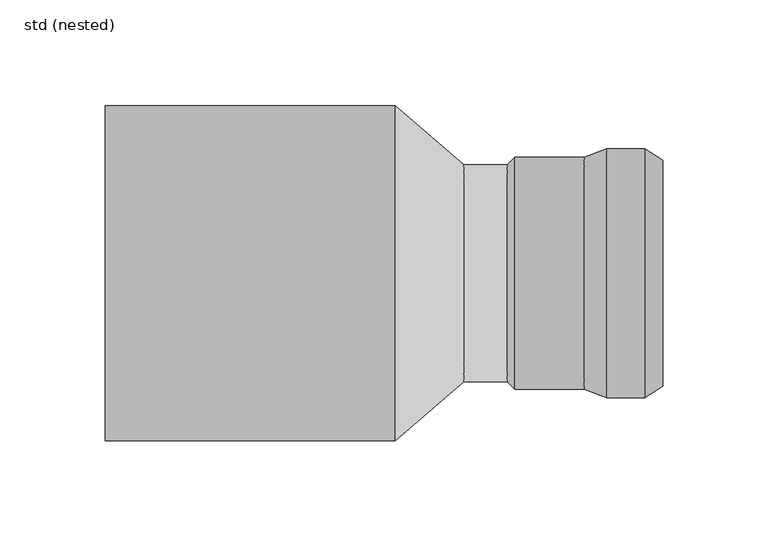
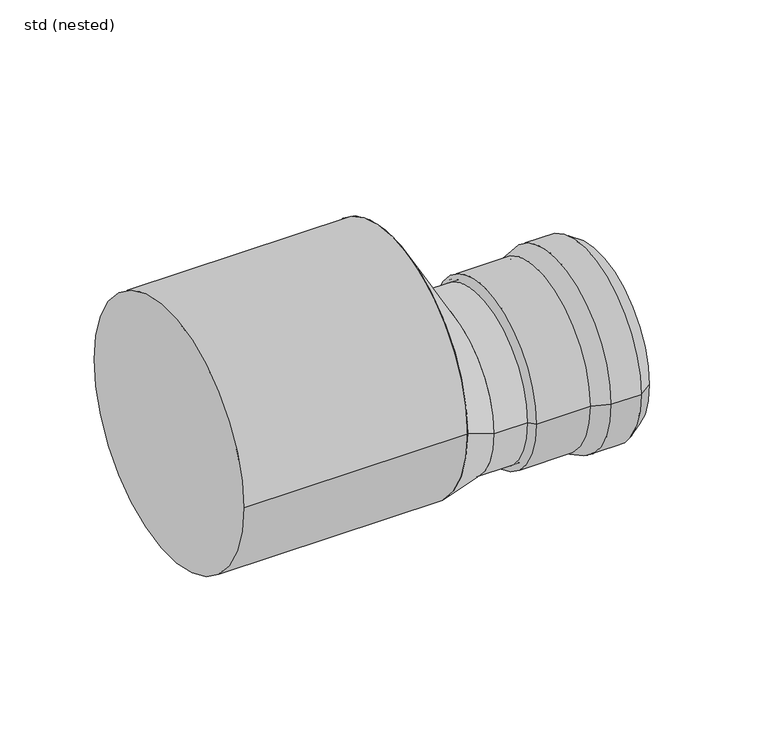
"""IFC4 building model written with IfcOpenShell, lengths in millimetres: pipe fitting geometry, ZZZ_do not use_PIF_ST_UN_GM-X transition element_ACO : std (nested)."""

from ifc_helpers import new_model, si_unit, point, frame, frame_2d, origin, origin_2d, place, context, project, spatial, polyline, circle_curve, trimmed, segment, composite_curve, outline, extrude, source, transform, mapped, element, save
from ifc_brep_helpers import plane_surface, cylinder_surface, revolved_surface, spline_surface, advanced_brep


def std_nested_afca93a4(model_context):
    return source(origin(), model_context, "Body", "SolidModel", [
        advanced_brep(
        [(140.5, -59.0, -28.5), (140.5, 59.0, -28.5), (158.7, 59.0, -28.5), (158.7, -59.0, -28.5), (130.0, -55.0, -28.5), (130.0, 55.0, -28.5), (167.0, 53.5, -28.5), (167.0, -53.5, -28.5), (97.0, -55.0, -28.5), (97.0, 55.0, -28.5), (93.5, -51.5, -28.5), (93.5, 51.5, -28.5), (97.0, -51.5, -28.5), (97.0, 51.5, -28.5), (130.3680513, -53.0, -28.5), (130.3680513, 53.0, -28.5), (97.0, 53.0, -28.5), (97.0, -53.0, -28.5), (140.8680513, -57.0, -28.5), (140.8680513, 57.0, -28.5), (158.0974883, -57.0, -28.5), (158.0974883, 57.0, -28.5), (165.8952393, -51.8328156, -28.5), (165.8952393, 51.8328156, -28.5)],
        [
            (0, 1, circle_curve(frame((140.5, 0.0, -28.5), z_axis=(1.0, 0.0, 0.0), x_axis=(0.0, 1.0, 0.0)), 59.0)),
            (1, 2),
            (2, 3, circle_curve(frame((158.7, 0.0, -28.5), z_axis=(-1.0, 0.0, 0.0), x_axis=(0.0, 1.0, 0.0)), 59.0)),
            (3, 0),
            (1, 0, circle_curve(frame((140.5, 0.0, -28.5), z_axis=(1.0, 0.0, 0.0), x_axis=(0.0, 1.0, 0.0)), 59.0)),
            (3, 2, circle_curve(frame((158.7, 0.0, -28.5), z_axis=(-1.0, 0.0, 0.0), x_axis=(0.0, 1.0, 0.0)), 59.0)),
            (4, 5, circle_curve(frame((130.0, 0.0, -28.5), z_axis=(1.0, 0.0, 0.0), x_axis=(0.0, 1.0, 0.0)), 55.0)),
            (5, 1),
            (0, 4),
            (5, 4, circle_curve(frame((130.0, 0.0, -28.5), z_axis=(1.0, 0.0, 0.0), x_axis=(0.0, 1.0, 0.0)), 55.0)),
            (2, 6),
            (6, 7, circle_curve(frame((167.0, 0.0, -28.5), z_axis=(-1.0, 0.0, 0.0), x_axis=(0.0, 1.0, 0.0)), 53.5)),
            (7, 3),
            (7, 6, circle_curve(frame((167.0, 0.0, -28.5), z_axis=(-1.0, 0.0, 0.0), x_axis=(0.0, 1.0, 0.0)), 53.5)),
            (8, 9, circle_curve(frame((97.0, 0.0, -28.5), z_axis=(1.0, 0.0, 0.0), x_axis=(0.0, 1.0, 0.0)), 55.0)),
            (9, 5),
            (4, 8),
            (9, 8, circle_curve(frame((97.0, 0.0, -28.5), z_axis=(1.0, 0.0, 0.0), x_axis=(0.0, 1.0, 0.0)), 55.0)),
            (10, 11, circle_curve(frame((93.5, 0.0, -28.5), z_axis=(1.0, 0.0, 0.0), x_axis=(0.0, 1.0, 0.0)), 51.5)),
            (11, 9),
            (8, 10),
            (11, 10, circle_curve(frame((93.5, 0.0, -28.5), z_axis=(1.0, 0.0, 0.0), x_axis=(0.0, 1.0, 0.0)), 51.5)),
            (12, 13, circle_curve(frame((97.0, 0.0, -28.5), z_axis=(1.0, 0.0, 0.0), x_axis=(0.0, 1.0, 0.0)), 51.5)),
            (13, 11),
            (10, 12),
            (13, 12, circle_curve(frame((97.0, 0.0, -28.5), z_axis=(1.0, 0.0, 0.0), x_axis=(0.0, 1.0, 0.0)), 51.5)),
            (14, 15, circle_curve(frame((130.3680513, 0.0, -28.5), z_axis=(1.0, 0.0, 0.0), x_axis=(0.0, 1.0, 0.0)), 53.0)),
            (15, 16),
            (16, 17, circle_curve(frame((97.0, 0.0, -28.5), z_axis=(-1.0, 0.0, 0.0), x_axis=(0.0, 1.0, 0.0)), 53.0)),
            (17, 14),
            (15, 14, circle_curve(frame((130.3680513, 0.0, -28.5), z_axis=(1.0, 0.0, 0.0), x_axis=(0.0, 1.0, 0.0)), 53.0)),
            (17, 16, circle_curve(frame((97.0, 0.0, -28.5), z_axis=(-1.0, 0.0, 0.0), x_axis=(0.0, 1.0, 0.0)), 53.0)),
            (18, 19, circle_curve(frame((140.8680513, 0.0, -28.5), z_axis=(1.0, 0.0, 0.0), x_axis=(0.0, 1.0, 0.0)), 57.0)),
            (19, 15),
            (14, 18),
            (19, 18, circle_curve(frame((140.8680513, 0.0, -28.5), z_axis=(1.0, 0.0, 0.0), x_axis=(0.0, 1.0, 0.0)), 57.0)),
            (20, 21, circle_curve(frame((158.0974883, 0.0, -28.5), z_axis=(1.0, 0.0, 0.0), x_axis=(0.0, 1.0, 0.0)), 57.0)),
            (21, 19),
            (18, 20),
            (21, 20, circle_curve(frame((158.0974883, 0.0, -28.5), z_axis=(1.0, 0.0, 0.0), x_axis=(0.0, 1.0, 0.0)), 57.0)),
            (22, 23, circle_curve(frame((165.8952393, 0.0, -28.5), z_axis=(1.0, 0.0, 0.0), x_axis=(0.0, 1.0, 0.0)), 51.8328156)),
            (23, 21),
            (20, 22),
            (23, 22, circle_curve(frame((165.8952393, 0.0, -28.5), z_axis=(1.0, 0.0, 0.0), x_axis=(0.0, 1.0, 0.0)), 51.8328156)),
            (6, 23),
            (22, 7),
            (16, 13),
            (12, 17),
        ],
        [
            cylinder_surface(frame((163.6444117, 0.0, -28.5), z_axis=(-1.0, 0.0, 0.0), x_axis=(0.0, 1.0, 0.0)), 59.0),
            revolved_surface(polyline([(140.5, 59.0, -28.5), (130.0, 55.0, -28.5)]), (163.6444117, 0.0, -28.5), (-1.0, 0.0, 0.0)),
            revolved_surface(polyline([(167.0, 53.5, -28.5), (158.7, 59.0, -28.5)]), (163.6444117, 0.0, -28.5), (-1.0, 0.0, 0.0)),
            cylinder_surface(frame((163.6444117, 0.0, -28.5), z_axis=(-1.0, 0.0, 0.0), x_axis=(0.0, 1.0, 0.0)), 55.0),
            revolved_surface(polyline([(97.0, 55.0, -28.5), (93.5, 51.5, -28.5)]), (163.6444117, 0.0, -28.5), (-1.0, 0.0, 0.0)),
            revolved_surface(polyline([(93.5, 51.5, -28.5), (97.0, 51.5, -28.5)]), (163.6444117, 0.0, -28.5), (-1.0, 0.0, 0.0)),
            revolved_surface(polyline([(97.0, 53.0, -28.5), (130.3680513, 53.0, -28.5)]), (163.6444117, 0.0, -28.5), (-1.0, 0.0, 0.0)),
            revolved_surface(polyline([(130.3680513, 53.0, -28.5), (140.8680513, 57.0, -28.5)]), (163.6444117, 0.0, -28.5), (-1.0, 0.0, 0.0)),
            revolved_surface(polyline([(140.8680513, 57.0, -28.5), (158.0974883, 57.0, -28.5)]), (163.6444117, 0.0, -28.5), (-1.0, 0.0, 0.0)),
            revolved_surface(polyline([(158.0974883, 57.0, -28.5), (165.8952393, 51.8328156, -28.5)]), (163.6444117, 0.0, -28.5), (-1.0, 0.0, 0.0)),
            revolved_surface(polyline([(165.8952393, 51.8328156, -28.5), (167.0, 53.5, -28.5)]), (163.6444117, 0.0, -28.5), (-1.0, 0.0, 0.0)),
            plane_surface(frame((97.0, 0.0, -28.5), z_axis=(1.0, 0.0, 0.0), x_axis=(0.0, 1.0, 0.0))),
        ],
        [
            (0, [[1, 2, 3, 4]]),
            (0, [[5, -4, 6, -2]]),
            (1, [[7, 8, -1, 9]]),
            (1, [[10, -9, -5, -8]]),
            (2, [[-3, 11, 12, 13]]),
            (2, [[-6, -13, 14, -11]]),
            (3, [[15, 16, -7, 17]]),
            (3, [[18, -17, -10, -16]]),
            (4, [[19, 20, -15, 21]]),
            (4, [[22, -21, -18, -20]]),
            (5, [[23, 24, -19, 25]]),
            (5, [[26, -25, -22, -24]]),
            (6, [[27, 28, 29, 30]]),
            (6, [[31, -30, 32, -28]]),
            (7, [[33, 34, -27, 35]]),
            (7, [[36, -35, -31, -34]]),
            (8, [[37, 38, -33, 39]]),
            (8, [[40, -39, -36, -38]]),
            (9, [[41, 42, -37, 43]]),
            (9, [[44, -43, -40, -42]]),
            (10, [[-12, 45, -41, 46]]),
            (10, [[-14, -46, -44, -45]]),
            (11, [[-29, 47, -23, 48]]),
            (11, [[-32, -48, -26, -47]]),
        ],
    ),
        advanced_brep(
        [(72.75, -51.5, -28.5), (72.75, 51.5, -28.5), (40.4166667, -79.5, 0.0), (40.4166667, 79.5, 0.0)],
        [
            (0, 1, circle_curve(frame((72.75, 0.0, -28.5), z_axis=(1.0, 0.0, 0.0), x_axis=(0.0, 1.0, 0.0)), 51.5)),
            (1, 0, circle_curve(frame((72.75, 0.0, -28.5), z_axis=(1.0, 0.0, 0.0), x_axis=(0.0, 1.0, 0.0)), 51.5)),
            (2, 3, circle_curve(frame((40.4166667, 0.0, 0.0), z_axis=(-1.0, 0.0, 0.0), x_axis=(0.0, 1.0, 0.0)), 79.5)),
            (3, 2, circle_curve(frame((40.4166667, 0.0, 0.0), z_axis=(-1.0, 0.0, 0.0), x_axis=(0.0, 1.0, 0.0)), 79.5)),
            (3, 1),
            (0, 2),
        ],
        [
            plane_surface(frame((72.75, 0.0, -28.5), z_axis=(1.0, 0.0, 0.0), x_axis=(0.0, 0.0, -1.0))),
            plane_surface(frame((40.4166667, 0.0, 0.0), z_axis=(-1.0, 0.0, 0.0), x_axis=(0.0, 0.0, -1.0))),
            spline_surface(2, 1, [[(40.4166667, -79.5, 0.0), (72.75, -51.5, -28.5)], [(40.4166667, -79.5, -79.5), (72.75, -51.5, -80.0)], [(40.4166667, 0.0, -79.5), (72.75, 0.0, -80.0)], [(40.4166667, 79.5, -79.5), (72.75, 51.5, -80.0)], [(40.4166667, 79.5, 0.0), (72.75, 51.5, -28.5)]], [3, 2, 3], [2, 2], [0.0, 1.0, 2.0], [0.0, 1.0], weights=[[1.0, 1.0], [0.7071067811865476, 0.7071067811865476], [1.0, 1.0], [0.7071067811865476, 0.7071067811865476], [1.0, 1.0]]),
            spline_surface(2, 1, [[(40.4166667, 79.5, 0.0), (72.75, 51.5, -28.5)], [(40.4166667, 79.5, 79.5), (72.75, 51.5, 23.0)], [(40.4166667, 0.0, 79.5), (72.75, 0.0, 23.0)], [(40.4166667, -79.5, 79.5), (72.75, -51.5, 23.0)], [(40.4166667, -79.5, 0.0), (72.75, -51.5, -28.5)]], [3, 2, 3], [2, 2], [0.0, 1.0, 2.0], [0.0, 1.0], weights=[[1.0, 1.0], [0.7071067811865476, 0.7071067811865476], [1.0, 1.0], [0.7071067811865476, 0.7071067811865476], [1.0, 1.0]]),
        ],
        [
            (0, [[1, 2]]),
            (1, [[3, 4]]),
            (2, [[-4, 5, -1, 6]]),
            (3, [[-3, -6, -2, -5]]),
        ],
    ),
        extrude(outline(composite_curve([segment(trimmed(circle_curve(frame_2d((0.0, -28.5)), 51.5), [point((51.5, -28.5))], [point((-51.5, -28.5))], False, "CARTESIAN"), True, "CONTINUOUS"), segment(trimmed(circle_curve(frame_2d((0.0, -28.5)), 51.5), [point((-51.5, -28.5))], [point((51.5, -28.5))], False, "CARTESIAN"), True, "CONTINUOUS")], self_intersect=False)), frame((72.75, 0.0, 0.0), z_axis=(1.0, 0.0, 0.0), x_axis=(0.0, 1.0, 0.0)), (0.0, 0.0, 1.0), 24.25),
        extrude(outline(composite_curve([segment(trimmed(circle_curve(origin_2d(), 79.5), [point((-79.5, 0.0))], [point((79.5, 0.0))], False, "CARTESIAN"), True, "CONTINUOUS"), segment(trimmed(circle_curve(origin_2d(), 79.5), [point((79.5, 0.0))], [point((-79.5, 0.0))], False, "CARTESIAN"), True, "CONTINUOUS")], self_intersect=False)), frame((-97.0, 0.0, 0.0), z_axis=(1.0, 0.0, 0.0), x_axis=(0.0, 1.0, 0.0)), (0.0, 0.0, 1.0), 137.4166667),
    ])


if __name__ == "__main__":
    model = new_model("IFC4")
    model_context = context("Model", 3, world=origin())
    ifc_project = project(units=[si_unit("LENGTHUNIT", "METRE", prefix="MILLI")], contexts=[model_context])
    site = spatial("IfcSite", under=ifc_project)
    building = spatial("IfcBuilding", under=site)
    placement = place(None, origin())
    std_nested_shape = std_nested_afca93a4(model_context)
    element("IfcPipeFitting", 1, ObjectType="ZZZ_do not use_PIF_ST_UN_GM-X transition element_ACO : std (nested)", at=placement, inside=building, context=model_context, shape_type="MappedRepresentation", body=[
        mapped(std_nested_shape, transform((0.0, 0.0, 0.0), x_axis=(1.0, 0.0, 0.0), y_axis=(0.0, 1.0, 0.0), z_axis=(0.0, 0.0, 1.0))),
    ])
    save(model, "model.ifc")
